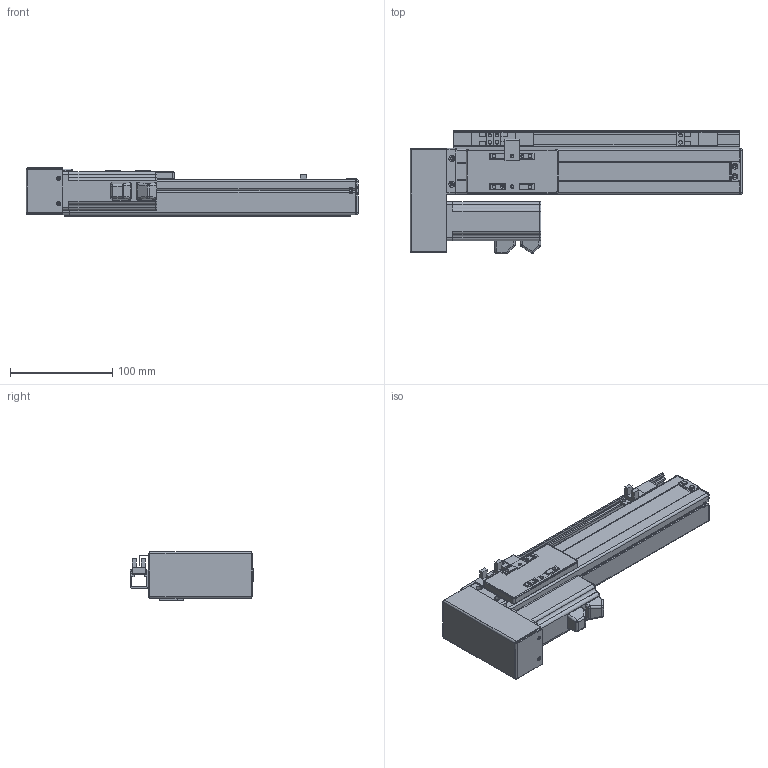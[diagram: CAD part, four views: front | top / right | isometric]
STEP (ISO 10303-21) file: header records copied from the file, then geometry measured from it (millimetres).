
FILE_DESCRIPTION (( 'STEP AP203' ), '1' );
FILE_NAME ('VT4-S160-BL.STEP', '2016-06-17T09:19:03', ( '' ), ( '' ), 'SwSTEP 2.0', 'SolidWorks 2013', '' );
FILE_SCHEMA (( 'CONFIG_CONTROL_DESIGN' ));
Length unit declared in the file: millimetre
Products named in the file (17): T4-BLR 100w萇儂假蚾啣_A6061; T4-裔啣; T6-癹弇羲壽羞_俴最160; T4-揤輸; EE-SX674-WR; SFKR0802佪裝TBI_俴最160; T4-覜茼え; MGW12C-絳寢_俴最160; 侂狟100W MSMD012G1U; T4-BLRM 粣創釱; VT4-S160-BL; T4-BLRM ヶ傷揤輸_A6061; T4-綴傷裔; 詩湍; T4-耜啣羲耀芞2_俴最160; T4-BLR 萇儂欶; T4-賑雄殤
Assembly tree (19 placements, depth 2):
  VT4-S160-BL
    T4-綴傷裔
    T4-耜啣羲耀芞2_俴最160  x2
    T4-賑雄殤
    T4-裔啣
    T4-揤輸
    SFKR0802佪裝TBI_俴最160
    MGW12C-絳寢_俴最160
    T4-BLRM 粣創釱
    T4-BLRM ヶ傷揤輸_A6061
    詩湍
    T4-BLR 萇儂欶
    T4-BLR 100w萇儂假蚾啣_A6061
    T6-癹弇羲壽羞_俴最160
    EE-SX674-WR  x3
    T4-覜茼え
    侂狟100W MSMD012G1U
Bounding box: 325 x 121.25 x 47.25 mm (x, y, z)
Volume: 379948.6 mm3; surface area: 257819.9 mm2
Topology: 22 solids, 22 shells, 1217 faces, 3254 edges, 2057 vertices
Faces by surface type: plane 562, cylinder 540, cone 57, torus 30, sphere 20, bspline 8
Entity records: 34279 total; most frequent: CARTESIAN_POINT 6536, DIRECTION 5552, ORIENTED_EDGE 5284, EDGE_CURVE 2642, AXIS2_PLACEMENT_3D 1985, VERTEX_POINT 1691, LINE 1582, VECTOR 1582
